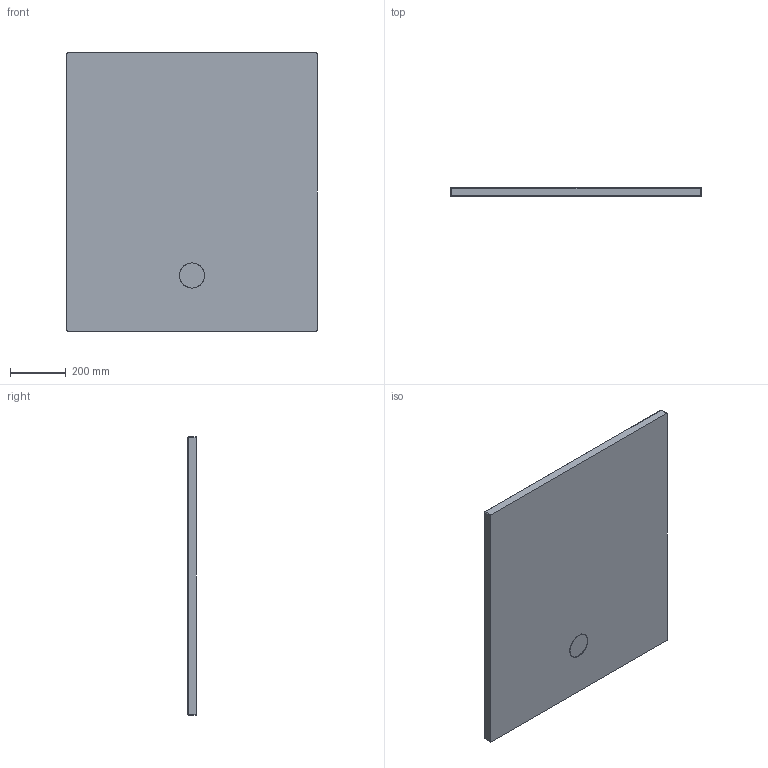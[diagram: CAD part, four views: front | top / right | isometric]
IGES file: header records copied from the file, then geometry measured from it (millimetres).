
Start section: SolidWorks IGES file using analytic representation for surfaces
Global section: file name: D:\Users\M.Szymanski\Desktop\Brodziki\Nias\B_M_NIAS_100x90x1,5.IGS; native system: SolidWorks 2011; preprocessor: SolidWorks 2011; author: M.Szymanski; date: 180222.141743; units: millimetre
Bounding box: 900 x 30 x 1000 mm (x, y, z)
Surface area: 1935145.2 mm2 (no closed solid volume)
Topology: 0 solids, 0 shells, 45 faces, 658 edges, 657 vertices
Faces by surface type: bspline 25, revolution 20
